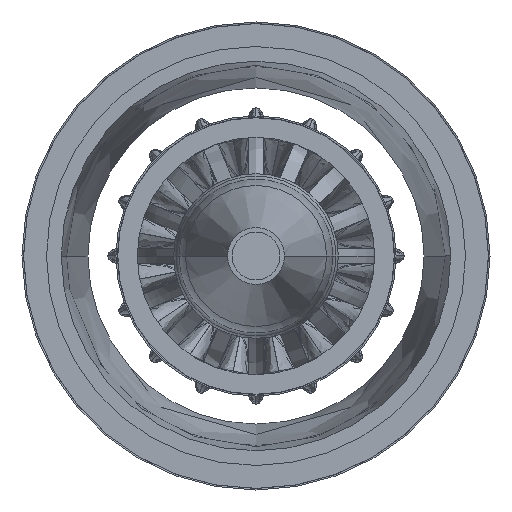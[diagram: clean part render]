
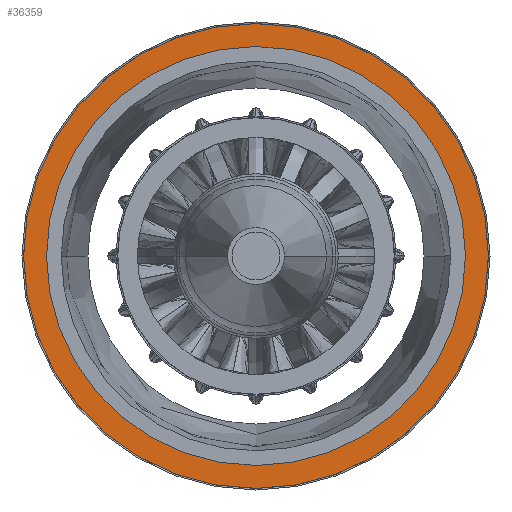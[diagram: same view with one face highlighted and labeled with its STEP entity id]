
A CAD part, left-side view. The second image highlights one B-rep face of the part: STEP entity #36359.
In plain terms, the highlighted planar face has unit normal (-1, 0, 0).
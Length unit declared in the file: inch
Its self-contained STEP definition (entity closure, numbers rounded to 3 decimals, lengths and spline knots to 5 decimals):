
#897 = EDGE_LOOP ( 'NONE', ( #98181, #84082 ) ) ;
#3696 = DIRECTION ( 'NONE',  ( 0., 0.001, 1. ) ) ;
#4837 = VERTEX_POINT ( 'NONE', #10499 ) ;
#6495 = DIRECTION ( 'NONE',  ( 1., 0., 0. ) ) ;
#7864 = DIRECTION ( 'NONE',  ( 0., -0.001, -1. ) ) ;
#9404 = AXIS2_PLACEMENT_3D ( 'NONE', #15882, #62431, #7864 ) ;
#10499 = CARTESIAN_POINT ( 'NONE',  ( -32.04609, 0.00369, 5.53289 ) ) ;
#10660 = DIRECTION ( 'NONE',  ( 1., 0., 0. ) ) ;
#13270 = DIRECTION ( 'NONE',  ( 1., 0., 0. ) ) ;
#15882 = CARTESIAN_POINT ( 'NONE',  ( -32.04609, 0., 0. ) ) ;
#18263 = DIRECTION ( 'NONE',  ( -1., 0., 0. ) ) ;
#18382 = VERTEX_POINT ( 'NONE', #91085 ) ;
#22023 = DIRECTION ( 'NONE',  ( 0., -0.001, -1. ) ) ;
#27882 = CIRCLE ( 'NONE', #77446, 5.5329 ) ;
#27901 = ORIENTED_EDGE ( 'NONE', *, *, #79851, .T. ) ;
#28807 = CARTESIAN_POINT ( 'NONE',  ( -32.04609, 0., 0. ) ) ;
#34424 = EDGE_CURVE ( 'NONE', #18382, #4837, #27882, .T. ) ;
#35330 = CIRCLE ( 'NONE', #83243, 6.13918 ) ;
#36052 = CARTESIAN_POINT ( 'NONE',  ( -32.04609, 0., 0. ) ) ;
#36359 = ADVANCED_FACE ( 'NONE', ( #42750, #79289 ), #49255, .T. ) ;
#38448 = ORIENTED_EDGE ( 'NONE', *, *, #34424, .T. ) ;
#41208 = EDGE_LOOP ( 'NONE', ( #38448, #27901 ) ) ;
#41280 = CARTESIAN_POINT ( 'NONE',  ( -32.04609, 5.53289, -0.00369 ) ) ;
#42750 = FACE_BOUND ( 'NONE', #41208, .T. ) ;
#48075 = CIRCLE ( 'NONE', #72072, 5.5329 ) ;
#48821 = AXIS2_PLACEMENT_3D ( 'NONE', #41280, #18263, #3696 ) ;
#49255 = PLANE ( 'NONE',  #48821 ) ;
#51818 = DIRECTION ( 'NONE',  ( 0., -0.001, -1. ) ) ;
#55736 = CARTESIAN_POINT ( 'NONE',  ( -32.04609, 0., 0. ) ) ;
#61484 = VERTEX_POINT ( 'NONE', #66899 ) ;
#62260 = CARTESIAN_POINT ( 'NONE',  ( -32.04609, -0.0041, -6.13918 ) ) ;
#62431 = DIRECTION ( 'NONE',  ( 1., 0., 0. ) ) ;
#66899 = CARTESIAN_POINT ( 'NONE',  ( -32.04609, 0.0041, 6.13918 ) ) ;
#72072 = AXIS2_PLACEMENT_3D ( 'NONE', #36052, #6495, #22023 ) ;
#72212 = DIRECTION ( 'NONE',  ( 0., -0.001, -1. ) ) ;
#73736 = EDGE_CURVE ( 'NONE', #61484, #91079, #79700, .T. ) ;
#77446 = AXIS2_PLACEMENT_3D ( 'NONE', #28807, #13270, #51818 ) ;
#79289 = FACE_OUTER_BOUND ( 'NONE', #897, .T. ) ;
#79700 = CIRCLE ( 'NONE', #9404, 6.13918 ) ;
#79851 = EDGE_CURVE ( 'NONE', #4837, #18382, #48075, .T. ) ;
#82920 = EDGE_CURVE ( 'NONE', #91079, #61484, #35330, .T. ) ;
#83243 = AXIS2_PLACEMENT_3D ( 'NONE', #55736, #10660, #72212 ) ;
#84082 = ORIENTED_EDGE ( 'NONE', *, *, #73736, .F. ) ;
#91079 = VERTEX_POINT ( 'NONE', #62260 ) ;
#91085 = CARTESIAN_POINT ( 'NONE',  ( -32.04609, -0.00369, -5.53289 ) ) ;
#98181 = ORIENTED_EDGE ( 'NONE', *, *, #82920, .F. ) ;
